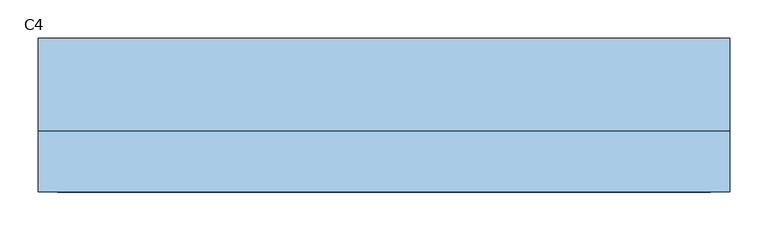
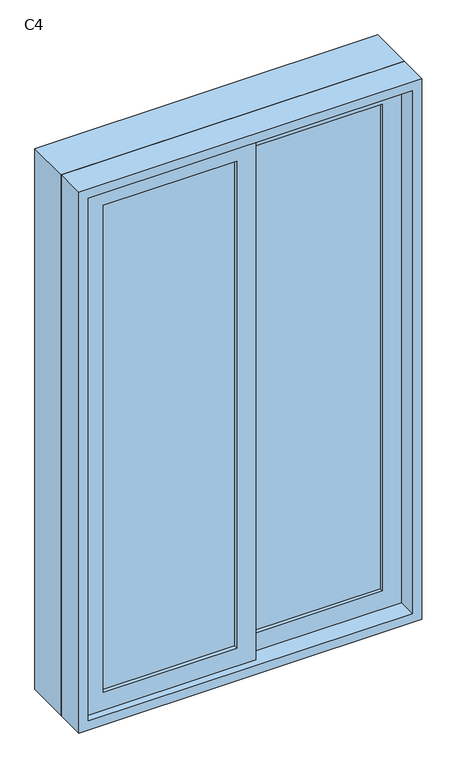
"""IFC4 building model written with IfcOpenShell, lengths in millimetres: window geometry, 推拉窗6 : C4."""

from ifc_helpers import new_model, si_unit, frame, origin, place, context, project, spatial, polyline, outline, extrude, source, transform, mapped, element, save


def c4_2700ab05(model_context):
    return source(origin(), model_context, "Body", "SweptSolid", [
        extrude(outline(polyline([(-365.475, -3.1265625), (-365.475, 6.8734375), (-15.475, 6.8734375), (-15.475, -3.1265625), (-365.475, -3.1265625)])), frame((0.0, 0.0, 975.0), z_axis=(0.0, 0.0, 1.0), x_axis=(1.0, 0.0, 0.0)), (0.0, 0.0, 1.0), 1350.0),
        extrude(outline(polyline([(34.525, 26.8734375), (34.525, 36.8734375), (384.525, 36.8734375), (384.525, 26.8734375), (34.525, 26.8734375)])), frame((0.0, 0.0, 975.0), z_axis=(0.0, 0.0, 1.0), x_axis=(1.0, 0.0, 0.0)), (0.0, 0.0, 1.0), 1350.0),
        extrude(outline(polyline([(2400.0, -440.475), (900.0, -440.475), (900.0, 459.525), (2400.0, 459.525), (2400.0, -440.475)]), holes=[polyline([(2345.0, 409.525), (955.0, 409.525), (955.0, -390.475), (2345.0, -390.475), (2345.0, 409.525)])]), frame((0.0, 46.8734375, 0.0), z_axis=(0.0, 1.0, 0.0), x_axis=(0.0, 0.0, 1.0)), (0.0, 0.0, 1.0), 120.0),
        extrude(outline(polyline([(925.0, 34.525), (2375.0, 34.525), (2375.0, -415.475), (925.0, -415.475), (925.0, 34.525)]), holes=[polyline([(975.0, -15.475), (975.0, -365.475), (2325.0, -365.475), (2325.0, -15.475), (975.0, -15.475)])]), frame((0.0, -13.1265625, 0.0), z_axis=(0.0, 1.0, 0.0), x_axis=(0.0, 0.0, 1.0)), (0.0, 0.0, 1.0), 30.0),
        extrude(outline(polyline([(2375.0, -15.475), (925.0, -15.475), (925.0, 434.525), (2375.0, 434.525), (2375.0, -15.475)]), holes=[polyline([(2325.0, 34.525), (2325.0, 384.525), (975.0, 384.525), (975.0, 34.525), (2325.0, 34.525)])]), frame((0.0, 16.8734375, 0.0), z_axis=(0.0, 1.0, 0.0), x_axis=(0.0, 0.0, 1.0)), (0.0, 0.0, 1.0), 30.0),
        extrude(outline(polyline([(2400.0, -440.475), (900.0, -440.475), (900.0, 459.525), (2400.0, 459.525), (2400.0, -440.475)]), holes=[polyline([(925.0, -415.475), (2375.0, -415.475), (2375.0, 434.525), (925.0, 434.525), (925.0, -415.475)])]), frame((0.0, -33.1265625, 0.0), z_axis=(0.0, 1.0, 0.0), x_axis=(0.0, 0.0, 1.0)), (0.0, 0.0, 1.0), 80.0),
    ])


if __name__ == "__main__":
    model = new_model("IFC4")
    model_context = context("Model", 3, world=origin())
    ifc_project = project(units=[si_unit("LENGTHUNIT", "METRE", prefix="MILLI")], contexts=[model_context])
    site = spatial("IfcSite", under=ifc_project)
    building = spatial("IfcBuilding", under=site)
    placement = place(None, origin())
    c4_shape = c4_2700ab05(model_context)
    element("IfcWindow", 1, ObjectType="推拉窗6 : C4", at=placement, inside=building, context=model_context, shape_type="MappedRepresentation", body=[
        mapped(c4_shape, transform((0.0, 0.0, 0.0), x_axis=(1.0, 0.0, 0.0), y_axis=(0.0, 1.0, 0.0), z_axis=(0.0, 0.0, 1.0))),
    ])
    save(model, "model.ifc")
